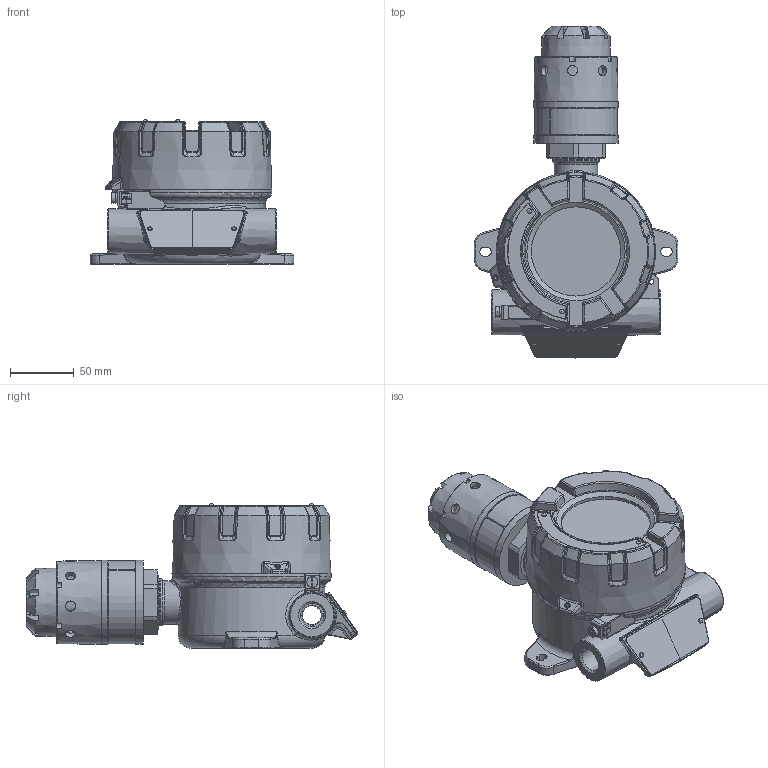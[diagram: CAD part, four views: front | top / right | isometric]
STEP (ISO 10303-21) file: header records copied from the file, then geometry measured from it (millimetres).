
FILE_DESCRIPTION(('STEP AP214'), '1');
FILE_NAME('ÄÃÑ ÝÐÈÑ-210 (êîðïóñ òèïà Á)_3D ìîäåëü', '2023-11-18T08:26:23', ('Alexandr'), (''), 'C3D Converter', 'C3D Toolkit', '');
FILE_SCHEMA(('AUTOMOTIVE_DESIGN { 1 0 10303 214 3 1 1}'));
Length unit declared in the file: millimetre
Products named in the file (1): АПНС.413216.212
Bounding box: 160 x 260.43 x 113.4 mm (x, y, z)
Volume: 751972 mm3; surface area: 281924.8 mm2
Topology: 31 solids, 31 shells, 1544 faces, 3890 edges, 2390 vertices
Faces by surface type: bspline 453, plane 446, cylinder 363, cone 175, torus 93, sphere 14
Full cylindrical faces by diameter (mm): 0.8 x3, 1.4 x9, 2 x11, 2.459 x11, 2.5 x2, 3.242 x2, 3.5 x2, 3.6 x4, 4 x3, 4.134 x1, 4.5 x1, 5 x2, 5.064 x1, 6 x1, 7 x1, 7.5 x1, 7.95 x8, 8.5 x1, 10 x1, 10.106 x1, 10.15 x1, 11.4 x1, 17 x1, 18.376 x3, 20 x1, 30 x3, 32 x2, 34 x1, 37.033 x1, 38 x1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
Entity records: 115703 total; most frequent: CARTESIAN_POINT 71324, ORIENTED_EDGE 7236, DIRECTION 5130, EDGE_CURVE 3618, VERTEX_POINT 2370, AXIS2_PLACEMENT_3D 2100, EDGE_LOOP 1868, B_SPLINE_CURVE_WITH_KNOTS 1593
